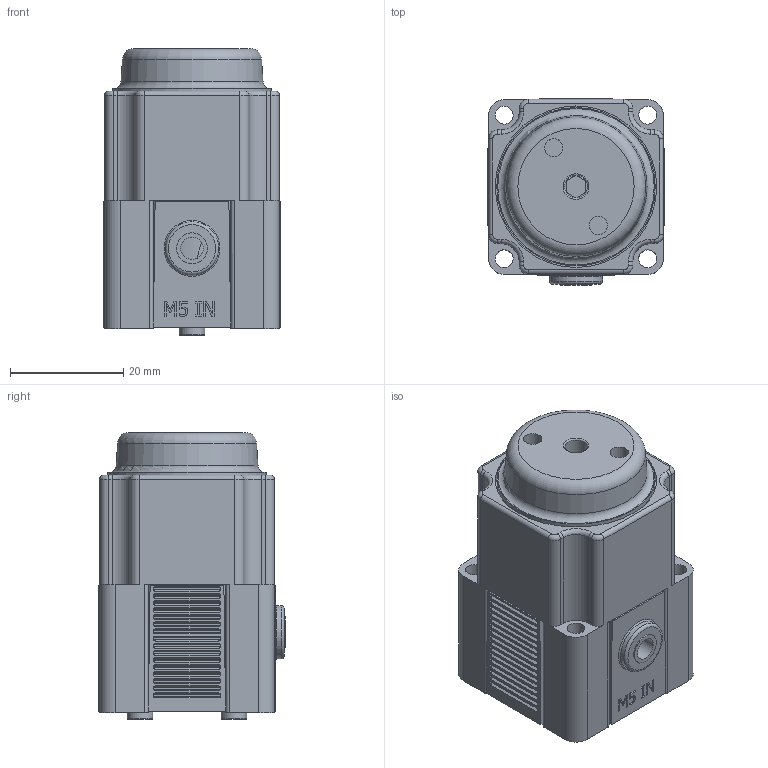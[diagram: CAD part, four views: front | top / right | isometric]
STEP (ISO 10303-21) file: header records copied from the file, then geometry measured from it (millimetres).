
FILE_DESCRIPTION(/* description */ (''),/* implementation_level */ '2;1');
FILE_NAME(/* name */ 'K:\Normteile INVENTOR\Air-Logic\Regulators\PR6000\PR 6___ S M5 Threads In.igs.ipt.stp',/* time_stamp */ '2020-05-27T10:53:37+02:00',/* author */ ('Paul'),/* organization */ (''),/* preprocessor_version */ 'ST-DEVELOPER v18',/* originating_system */ 'Autodesk Inventor 2020',/* authorisation */ '');
FILE_SCHEMA (('AUTOMOTIVE_DESIGN { 1 0 10303 214 3 1 1 }'));
Length unit declared in the file: inch
Products named in the file (1): PR 6___ S M5 Threads In.igs
Bounding box: 31.19 x 32.97 x 50.78 mm (x, y, z)
Volume: 38970.3 mm3; surface area: 12750.2 mm2
Topology: 1 solids, 1 shells, 702 faces, 1817 edges, 1196 vertices
Faces by surface type: plane 366, cylinder 269, bspline 33, torus 31, cone 3
Full cylindrical faces by diameter (mm): 1.194 x1, 2.032 x1, 3.124 x2, 3.175 x8, 3.226 x2, 3.962 x1, 4.013 x1, 4.521 x2, 5.486 x1, 6.248 x1, 8.382 x2, 9.169 x1, 9.398 x1, 9.652 x1, 12.903 x1, 25.781 x1, 28.047 x1, 28.575 x1
Entity records: 25133 total; most frequent: CARTESIAN_POINT 6793, DIRECTION 3803, ORIENTED_EDGE 3634, EDGE_CURVE 1817, AXIS2_PLACEMENT_3D 1473, VERTEX_POINT 1196, LINE 857, VECTOR 857
